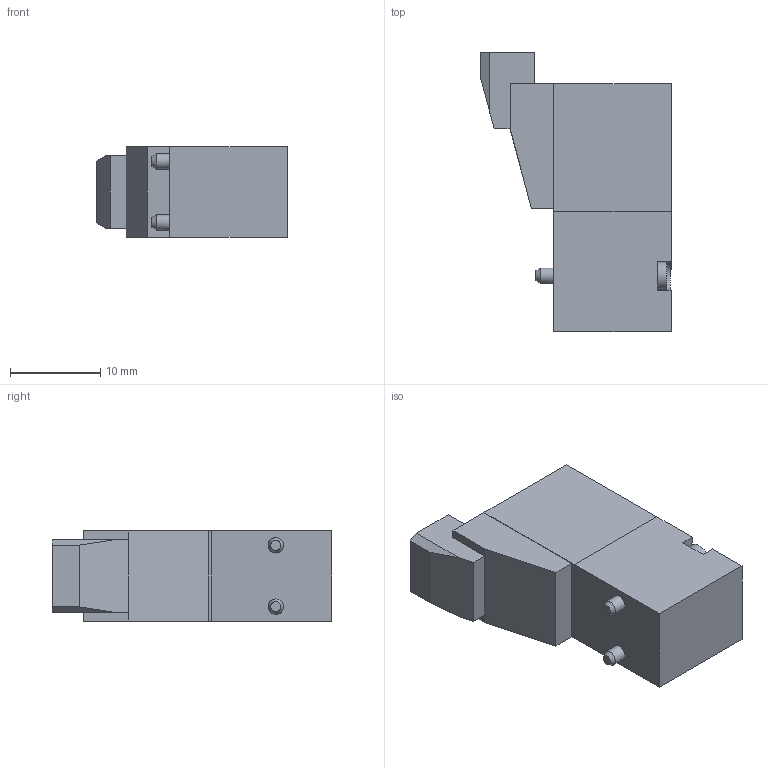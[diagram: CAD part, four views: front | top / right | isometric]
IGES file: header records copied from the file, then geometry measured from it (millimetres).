
Global section: file name: P3##.5R; native system: Autodesk Inventor 2014; preprocessor: unknown; author: A. Manieri; organization: Pneumax S.p.A.; date: 20160902.102259; units: millimetre
Bounding box: 21.1 x 31 x 10 mm (x, y, z)
Volume: 4274.6 mm3; surface area: 2048.1 mm2
Topology: 1 solids, 1 shells, 89 faces, 226 edges, 148 vertices
Faces by surface type: bspline 89
